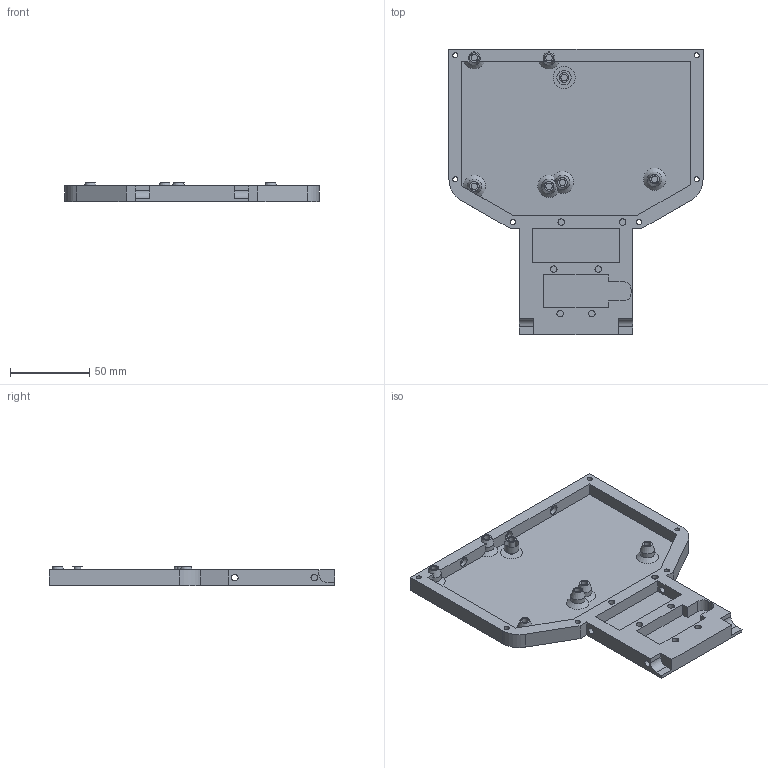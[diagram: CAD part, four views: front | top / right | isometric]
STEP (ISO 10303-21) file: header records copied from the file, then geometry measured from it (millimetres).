
FILE_DESCRIPTION(/* description */ (''),/* implementation_level */ '2;1');
FILE_NAME(/* name */ '1-02-1 Bottom front.step',/* time_stamp */ '2025-05-10T21:33:22+02:00',/* author */ (''),/* organization */ (''),/* preprocessor_version */ 'ST-DEVELOPER v20.1',/* originating_system */ 'Autodesk Translation Framework v14.4.0.0',/* authorisation */ '');
FILE_SCHEMA (('AUTOMOTIVE_DESIGN { 1 0 10303 214 3 1 1 }'));
Length unit declared in the file: millimetre
Products named in the file (1): 1-02-1 Bottom front
Bounding box: 160 x 179.9 x 12 mm (x, y, z)
Volume: 94602.9 mm3; surface area: 60131.1 mm2
Topology: 1 solids, 3 shells, 146 faces, 330 edges, 214 vertices
Faces by surface type: plane 76, cylinder 48, cone 22
Full cylindrical faces by diameter (mm): 3.2 x9, 4.1 x17, 6 x9, 9 x2
Entity records: 4169 total; most frequent: CARTESIAN_POINT 750, DIRECTION 723, ORIENTED_EDGE 660, EDGE_CURVE 330, AXIS2_PLACEMENT_3D 267, VERTEX_POINT 214, EDGE_LOOP 192, LINE 189
